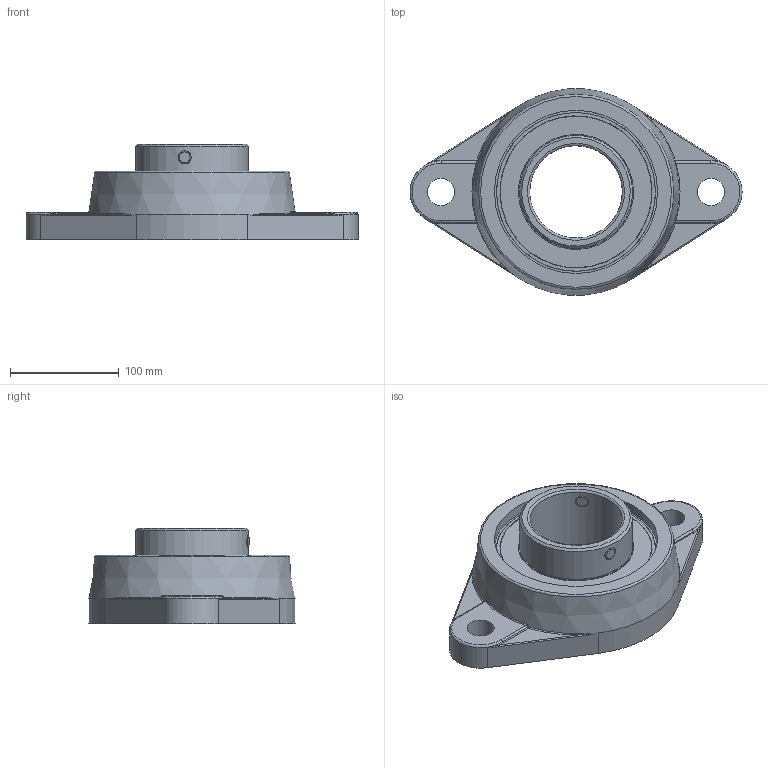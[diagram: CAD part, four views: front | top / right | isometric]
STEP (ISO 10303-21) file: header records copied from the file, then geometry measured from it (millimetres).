
FILE_DESCRIPTION(/* description */ (''),/* implementation_level */ '2;1');
FILE_NAME(/* name */ 'C:\MOJE SUBORY\03_Doplnenie 3D modelov\fmc\FMC217.stp',/* time_stamp */ '2020-12-15T13:17:24+01:00',/* author */ ('OUPIONTEKM'),/* organization */ (''),/* preprocessor_version */ 'ST-DEVELOPER v18.1',/* originating_system */ 'Autodesk Inventor 2021',/* authorisation */ '');
FILE_SCHEMA (('AUTOMOTIVE_DESIGN { 1 0 10303 214 3 1 1 }'));
Length unit declared in the file: millimetre
Products named in the file (10): FMC205; FM217; UC217; UC217-02; UC217-ball; UC217-01; UC217-cage; UC217-seal; M12x10; UC217-shield
Assembly tree (20 placements, depth 3):
  FMC205
    FM217
    UC217
      UC217-02
      UC217-ball  x8
      UC217-01
      UC217-cage  x2
      UC217-seal  x2
      M12x10  x2
      UC217-shield  x2
Bounding box: 305 x 189.38 x 87.6 mm (x, y, z)
Volume: 1241312 mm3; surface area: 292593.3 mm2
Topology: 19 solids, 19 shells, 220 faces, 650 edges, 414 vertices
Faces by surface type: plane 77, cylinder 51, sphere 47, bspline 20, torus 17, cone 8
Full cylindrical faces by diameter (mm): 2.5 x2, 12 x4, 25 x2, 85 x1, 103.679 x6, 105.679 x2, 111.577 x2, 123.423 x2, 131.321 x2, 139.221 x2, 139.821 x4, 149.86 x1, 151.494 x1
Entity records: 7603 total; most frequent: CARTESIAN_POINT 3089, DIRECTION 935, ORIENTED_EDGE 858, EDGE_CURVE 429, AXIS2_PLACEMENT_3D 428, VERTEX_POINT 286, CIRCLE 254, EDGE_LOOP 189
